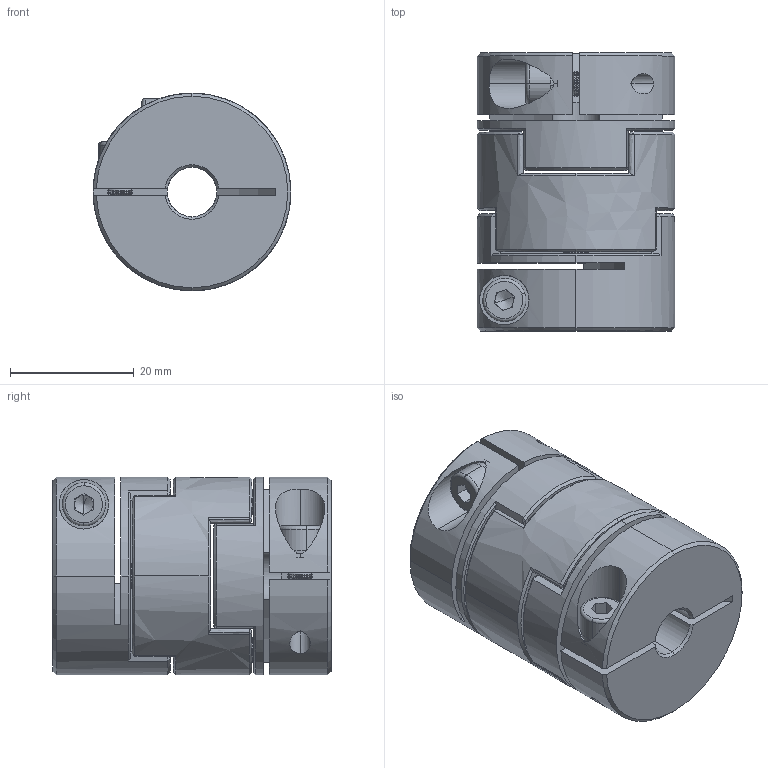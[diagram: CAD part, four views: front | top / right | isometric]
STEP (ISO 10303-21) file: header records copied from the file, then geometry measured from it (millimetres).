
FILE_DESCRIPTION (( 'STEP AP203' ), '1' );
FILE_NAME ('LZ-B-D32L45-8-8.STEP', '2021-10-29T06:38:10', ( '' ), ( '' ), 'SwSTEP 2.0', 'SolidWorks 2018', '' );
FILE_SCHEMA (( 'CONFIG_CONTROL_DESIGN' ));
Length unit declared in the file: millimetre
Products named in the file (1): LZ-B-D32L45-8-8
Bounding box: 32 x 45 x 32 mm (x, y, z)
Volume: 30346.1 mm3; surface area: 13227.3 mm2
Topology: 1 solids, 1 shells, 356 faces, 856 edges, 498 vertices
Faces by surface type: cone 118, cylinder 92, plane 84, bspline 54, torus 8
Entity records: 11145 total; most frequent: CARTESIAN_POINT 3197, ORIENTED_EDGE 1704, DIRECTION 1578, EDGE_CURVE 852, AXIS2_PLACEMENT_3D 619, VERTEX_POINT 498, EDGE_LOOP 382, ADVANCED_FACE 356
